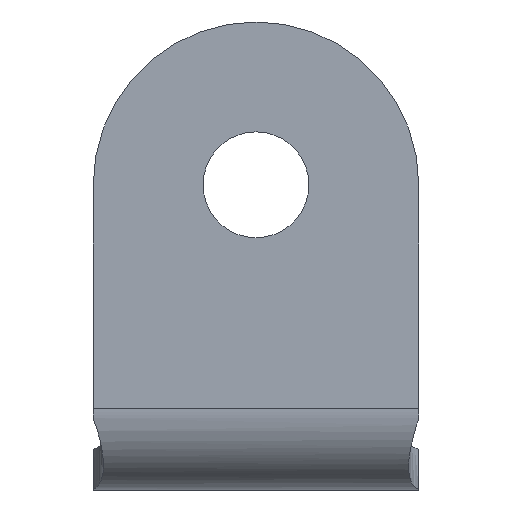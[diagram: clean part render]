
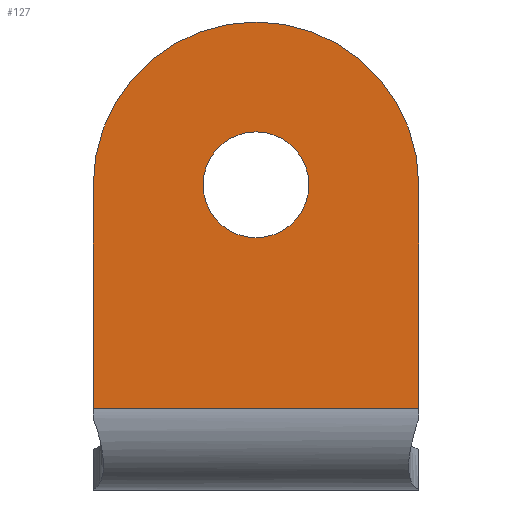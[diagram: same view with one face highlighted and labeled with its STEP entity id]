
A CAD part, left-side view. The second image highlights one B-rep face of the part: STEP entity #127.
In plain terms, the highlighted planar face has unit normal (-1, 0, 0).
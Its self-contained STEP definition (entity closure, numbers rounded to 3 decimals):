
#3 = DIRECTION ( 'NONE',  ( 0., 0., 1. ) ) ;
#4 = VECTOR ( 'NONE', #3, 1000. ) ;
#68 = VERTEX_POINT ( 'NONE', #393 ) ;
#70 = EDGE_CURVE ( 'NONE', #173, #181, #370, .T. ) ;
#71 = EDGE_LOOP ( 'NONE', ( #128, #183, #160, #123 ) ) ;
#115 = EDGE_CURVE ( 'NONE', #68, #163, #547, .T. ) ;
#122 = EDGE_CURVE ( 'NONE', #181, #182, #551, .T. ) ;
#123 = ORIENTED_EDGE ( 'NONE', *, *, #122, .F. ) ;
#127 = ADVANCED_FACE ( 'NONE', ( #538, #550 ), #537, .F. ) ;
#128 = ORIENTED_EDGE ( 'NONE', *, *, #70, .F. ) ;
#129 = ORIENTED_EDGE ( 'NONE', *, *, #115, .T. ) ;
#160 = ORIENTED_EDGE ( 'NONE', *, *, #184, .F. ) ;
#163 = VERTEX_POINT ( 'NONE', #493 ) ;
#164 = EDGE_LOOP ( 'NONE', ( #179, #129 ) ) ;
#165 = EDGE_CURVE ( 'NONE', #163, #68, #430, .T. ) ;
#173 = VERTEX_POINT ( 'NONE', #478 ) ;
#179 = ORIENTED_EDGE ( 'NONE', *, *, #165, .T. ) ;
#181 = VERTEX_POINT ( 'NONE', #590 ) ;
#182 = VERTEX_POINT ( 'NONE', #560 ) ;
#183 = ORIENTED_EDGE ( 'NONE', *, *, #191, .T. ) ;
#184 = EDGE_CURVE ( 'NONE', #182, #199, #472, .T. ) ;
#191 = EDGE_CURVE ( 'NONE', #173, #199, #468, .T. ) ;
#199 = VERTEX_POINT ( 'NONE', #469 ) ;
#369 = CARTESIAN_POINT ( 'NONE',  ( 11.712, 8., 13. ) ) ;
#370 = LINE ( 'NONE', #369, #4 ) ;
#393 = CARTESIAN_POINT ( 'NONE',  ( 11.712, 0., 15.6 ) ) ;
#421 = DIRECTION ( 'NONE',  ( 0., 0., -1. ) ) ;
#422 = DIRECTION ( 'NONE',  ( 1., 0., 0. ) ) ;
#423 = CARTESIAN_POINT ( 'NONE',  ( 11.712, 11.75, -0.356 ) ) ;
#429 = AXIS2_PLACEMENT_3D ( 'NONE', #484, #483, #482 ) ;
#430 = CIRCLE ( 'NONE', #429, 2.6 ) ;
#453 = AXIS2_PLACEMENT_3D ( 'NONE', #423, #422, #421 ) ;
#465 = DIRECTION ( 'NONE',  ( 0., -1., 0. ) ) ;
#466 = VECTOR ( 'NONE', #465, 1000. ) ;
#467 = CARTESIAN_POINT ( 'NONE',  ( 11.712, 11.75, 2. ) ) ;
#468 = LINE ( 'NONE', #467, #466 ) ;
#469 = CARTESIAN_POINT ( 'NONE',  ( 11.712, -8., 2. ) ) ;
#470 = DIRECTION ( 'NONE',  ( 0., 0., -1. ) ) ;
#471 = VECTOR ( 'NONE', #470, 1000. ) ;
#472 = LINE ( 'NONE', #473, #471 ) ;
#473 = CARTESIAN_POINT ( 'NONE',  ( 11.712, -8., 13. ) ) ;
#478 = CARTESIAN_POINT ( 'NONE',  ( 11.712, 8., 2. ) ) ;
#482 = DIRECTION ( 'NONE',  ( 0., 0., -1. ) ) ;
#483 = DIRECTION ( 'NONE',  ( 1., 0., 0. ) ) ;
#484 = CARTESIAN_POINT ( 'NONE',  ( 11.712, 0., 13. ) ) ;
#493 = CARTESIAN_POINT ( 'NONE',  ( 11.712, 0., 10.4 ) ) ;
#499 = CARTESIAN_POINT ( 'NONE',  ( 11.712, 0., 13. ) ) ;
#537 = PLANE ( 'NONE',  #453 ) ;
#538 = FACE_BOUND ( 'NONE', #164, .T. ) ;
#540 = DIRECTION ( 'NONE',  ( 0., 0., 1. ) ) ;
#544 = DIRECTION ( 'NONE',  ( 0., 0., -1. ) ) ;
#545 = DIRECTION ( 'NONE',  ( 1., 0., 0. ) ) ;
#546 = AXIS2_PLACEMENT_3D ( 'NONE', #499, #545, #544 ) ;
#547 = CIRCLE ( 'NONE', #546, 2.6 ) ;
#550 = FACE_OUTER_BOUND ( 'NONE', #71, .T. ) ;
#551 = CIRCLE ( 'NONE', #576, 8. ) ;
#560 = CARTESIAN_POINT ( 'NONE',  ( 11.712, -8., 13. ) ) ;
#574 = DIRECTION ( 'NONE',  ( 1., 0., 0. ) ) ;
#575 = CARTESIAN_POINT ( 'NONE',  ( 11.712, 0., 13. ) ) ;
#576 = AXIS2_PLACEMENT_3D ( 'NONE', #575, #574, #540 ) ;
#590 = CARTESIAN_POINT ( 'NONE',  ( 11.712, 8., 13. ) ) ;
